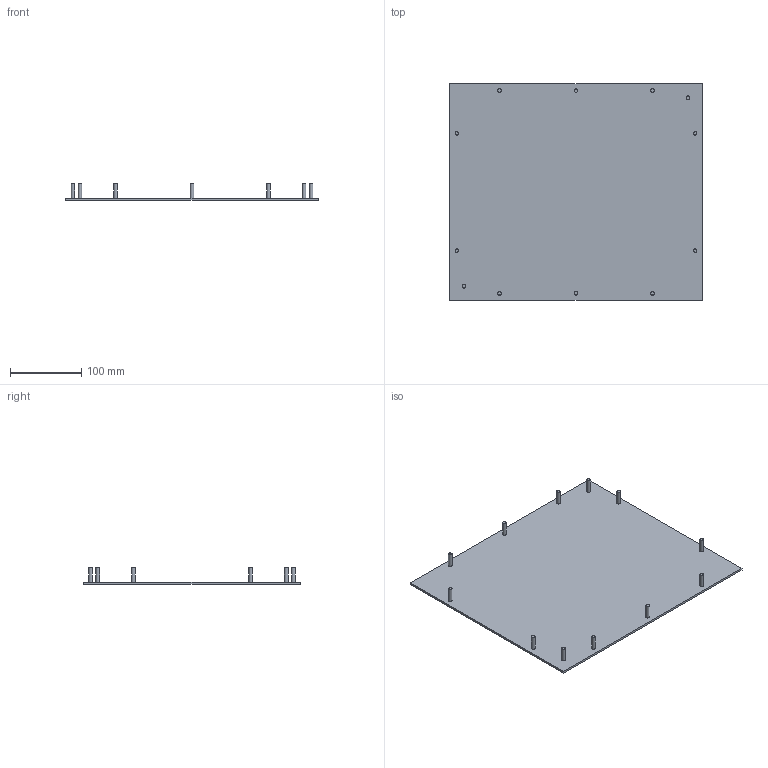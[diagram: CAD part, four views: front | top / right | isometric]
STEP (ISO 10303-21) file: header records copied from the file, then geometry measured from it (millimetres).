
FILE_DESCRIPTION (( 'STEP AP214' ), '1' );
FILE_NAME ('OIFP3439_V0.STEP', '2017-05-10T07:16:01', ( '' ), ( '' ), 'SwSTEP 2.0', 'SolidWorks 2014', '' );
FILE_SCHEMA (( 'AUTOMOTIVE_DESIGN' ));
Length unit declared in the file: millimetre
Products named in the file (3): 9543-1005_OIFP3439; OIFP3439_V0; Stud M5x20
Assembly tree (13 placements, depth 2):
  OIFP3439_V0
    9543-1005_OIFP3439
    Stud M5x20  x12
Bounding box: 355 x 305 x 23 mm (x, y, z)
Volume: 329533.7 mm3; surface area: 224728.4 mm2
Topology: 13 solids, 13 shells, 54 faces, 72 edges, 44 vertices
Faces by surface type: plane 30, cylinder 12, cone 12
Full cylindrical faces by diameter (mm): 5 x12
Entity records: 424 total; most frequent: DIRECTION 70, CARTESIAN_POINT 52, ORIENTED_EDGE 30, AXIS2_PLACEMENT_3D 29, PRODUCT_DEFINITION_SHAPE 16, EDGE_CURVE 15, CONTEXT_DEPENDENT_SHAPE_REPRESENTATION 13, ITEM_DEFINED_TRANSFORMATION 13
